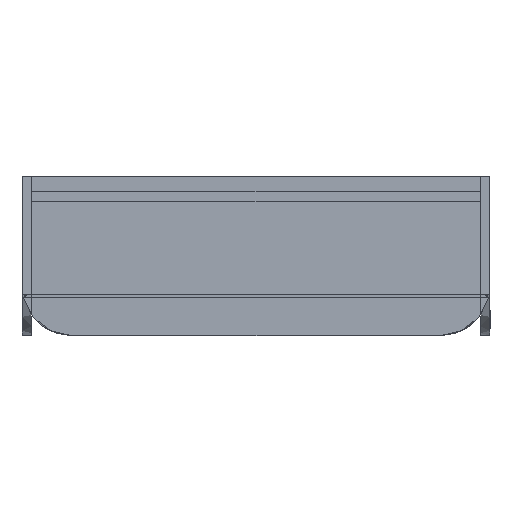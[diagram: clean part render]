
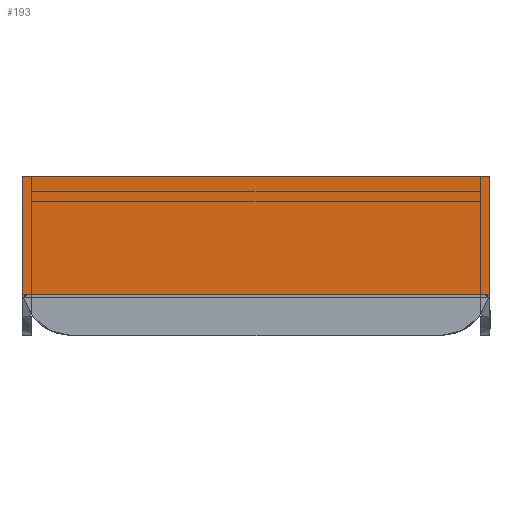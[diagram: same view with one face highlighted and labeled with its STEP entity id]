
A CAD part, left-side view. The second image highlights one B-rep face of the part: STEP entity #193.
In plain terms, the highlighted planar face has unit normal (-1, 0, 0).
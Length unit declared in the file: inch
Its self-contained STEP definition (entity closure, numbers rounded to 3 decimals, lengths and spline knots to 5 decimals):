
#193=ADVANCED_FACE('',(#499),#4877,.T.);
#499=FACE_OUTER_BOUND('',#817,.T.);
#817=EDGE_LOOP('',(#1582,#1583,#1584,#1585));
#1582=ORIENTED_EDGE('',*,*,#2894,.F.);
#1583=ORIENTED_EDGE('',*,*,#2873,.F.);
#1584=ORIENTED_EDGE('',*,*,#2893,.T.);
#1585=ORIENTED_EDGE('',*,*,#2888,.F.);
#2873=EDGE_CURVE('',#4431,#4433,#3742,.T.);
#2888=EDGE_CURVE('',#4442,#4441,#3753,.T.);
#2893=EDGE_CURVE('',#4431,#4441,#3758,.T.);
#2894=EDGE_CURVE('',#4433,#4442,#3759,.T.);
#3742=B_SPLINE_CURVE_WITH_KNOTS('',1,(#6946,#6947),.UNSPECIFIED.,.F.,.F.,
(2,2),(131.56194,155.06194),.UNSPECIFIED.);
#3753=B_SPLINE_CURVE_WITH_KNOTS('',1,(#6992,#6993),.UNSPECIFIED.,.F.,.F.,
(2,2),(-23.49999,0.),.UNSPECIFIED.);
#3758=B_SPLINE_CURVE_WITH_KNOTS('',1,(#7002,#7003),.UNSPECIFIED.,.F.,.F.,
(2,2),(0.,5.9375),.UNSPECIFIED.);
#3759=B_SPLINE_CURVE_WITH_KNOTS('',1,(#7004,#7005),.UNSPECIFIED.,.F.,.F.,
(2,2),(0.,5.9375),.UNSPECIFIED.);
#4431=VERTEX_POINT('',#6914);
#4433=VERTEX_POINT('',#6916);
#4441=VERTEX_POINT('',#6924);
#4442=VERTEX_POINT('',#6925);
#4877=PLANE('',#5312);
#5312=AXIS2_PLACEMENT_3D('',#6906,#5694,$);
#5694=DIRECTION('',(-1.,0.,0.));
#6906=CARTESIAN_POINT('',(4601.35839,-238.85911,247.02664));
#6914=CARTESIAN_POINT('',(4601.35839,-215.35911,252.96414));
#6916=CARTESIAN_POINT('',(4601.35839,-238.85911,252.96414));
#6924=CARTESIAN_POINT('',(4601.35839,-215.35911,247.02664));
#6925=CARTESIAN_POINT('',(4601.35839,-238.85911,247.02664));
#6946=CARTESIAN_POINT('',(4601.35839,-215.35911,252.96414));
#6947=CARTESIAN_POINT('',(4601.35839,-238.85911,252.96414));
#6992=CARTESIAN_POINT('',(4601.35839,-238.85911,247.02664));
#6993=CARTESIAN_POINT('',(4601.35839,-215.35911,247.02664));
#7002=CARTESIAN_POINT('',(4601.35839,-215.35911,252.96414));
#7003=CARTESIAN_POINT('',(4601.35839,-215.35911,247.02664));
#7004=CARTESIAN_POINT('',(4601.35839,-238.85911,252.96414));
#7005=CARTESIAN_POINT('',(4601.35839,-238.85911,247.02664));
